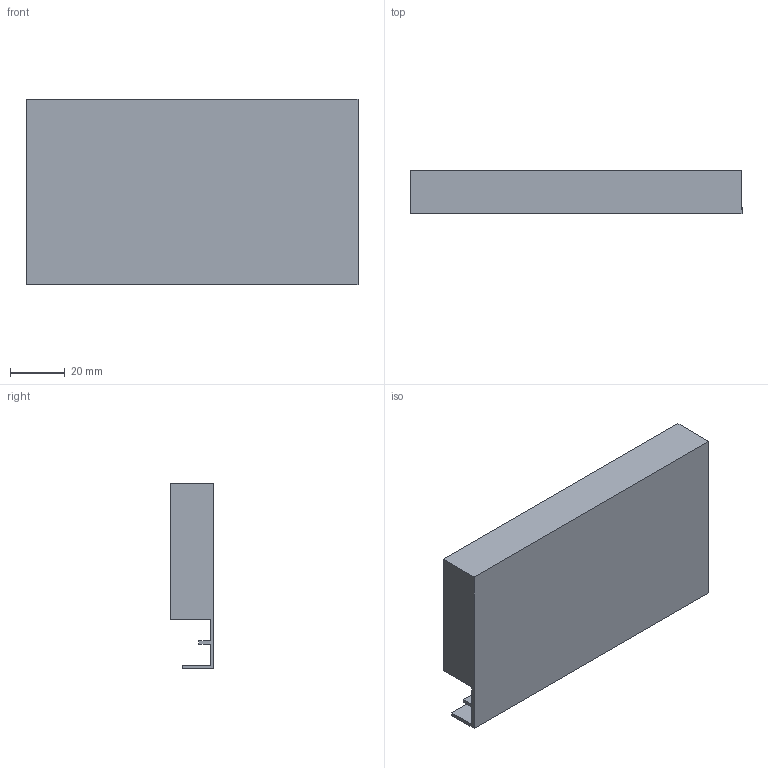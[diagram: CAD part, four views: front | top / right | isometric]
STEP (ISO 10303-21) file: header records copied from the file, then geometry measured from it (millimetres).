
FILE_DESCRIPTION (( 'STEP AP214' ), '1' );
FILE_NAME ('Innenschub-Blendenprofil_KAB250_S19.step', '2010-09-23T12:27:04', ( 'grass' ), ( '' ), 'SwSTEP 2.0', 'SolidWorks 2010', '' );
FILE_SCHEMA (( 'AUTOMOTIVE_DESIGN' ));
Length unit declared in the file: millimetre
Products named in the file (1): Innenschub-Blendenprofil_KAB250_S19
Bounding box: 121 x 15.9 x 67.6 mm (x, y, z)
Volume: 100289.3 mm3; surface area: 25433.2 mm2
Topology: 1 solids, 1 shells, 17 faces, 42 edges, 28 vertices
Faces by surface type: plane 15, cylinder 2
Entity records: 534 total; most frequent: CARTESIAN_POINT 88, ORIENTED_EDGE 84, DIRECTION 82, EDGE_CURVE 42, VECTOR 38, LINE 38, VERTEX_POINT 28, AXIS2_PLACEMENT_3D 22
